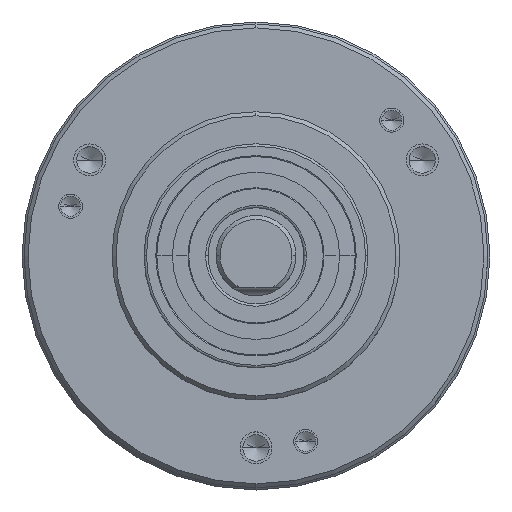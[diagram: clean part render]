
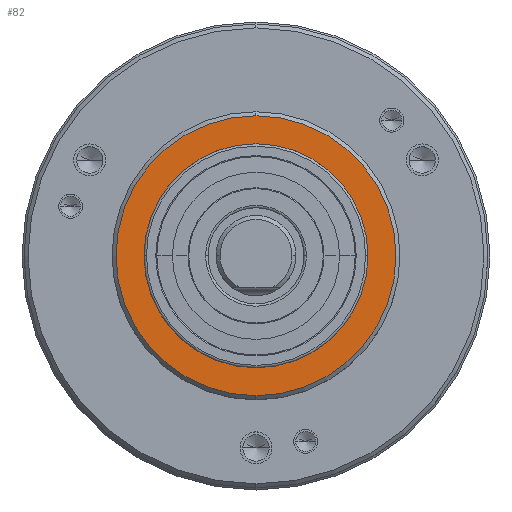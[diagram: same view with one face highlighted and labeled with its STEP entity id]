
A CAD part, top view. The second image highlights one B-rep face of the part: STEP entity #82.
In plain terms, the highlighted planar face has unit normal (0, 0, 1).
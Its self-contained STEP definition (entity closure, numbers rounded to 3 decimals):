
#81 = EDGE_CURVE ( 'NONE', #993, #217, #1494, .T. ) ;
#82 = ADVANCED_FACE ( 'NONE', ( #1455, #1454 ), #1453, .T. ) ;
#83 = EDGE_LOOP ( 'NONE', ( #84, #184 ) ) ;
#84 = ORIENTED_EDGE ( 'NONE', *, *, #1533, .T. ) ;
#85 = EDGE_LOOP ( 'NONE', ( #185, #186 ) ) ;
#184 = ORIENTED_EDGE ( 'NONE', *, *, #1299, .T. ) ;
#185 = ORIENTED_EDGE ( 'NONE', *, *, #81, .F. ) ;
#186 = ORIENTED_EDGE ( 'NONE', *, *, #810, .F. ) ;
#217 = VERTEX_POINT ( 'NONE', #1951 ) ;
#810 = EDGE_CURVE ( 'NONE', #217, #993, #3090, .T. ) ;
#993 = VERTEX_POINT ( 'NONE', #3316 ) ;
#1217 = VERTEX_POINT ( 'NONE', #4295 ) ;
#1299 = EDGE_CURVE ( 'NONE', #1300, #1217, #3590, .T. ) ;
#1300 = VERTEX_POINT ( 'NONE', #3616 ) ;
#1449 = DIRECTION ( 'NONE',  ( 0., -1., 0. ) ) ;
#1450 = DIRECTION ( 'NONE',  ( 0., 0., 1. ) ) ;
#1451 = CARTESIAN_POINT ( 'NONE',  ( 0., 0., 0. ) ) ;
#1452 = AXIS2_PLACEMENT_3D ( 'NONE', #1451, #1450, #1449 ) ;
#1453 = PLANE ( 'NONE',  #1452 ) ;
#1454 = FACE_BOUND ( 'NONE', #85, .T. ) ;
#1455 = FACE_OUTER_BOUND ( 'NONE', #83, .T. ) ;
#1456 = DIRECTION ( 'NONE',  ( -1., 0., 0. ) ) ;
#1457 = DIRECTION ( 'NONE',  ( 0., 0., 1. ) ) ;
#1458 = CARTESIAN_POINT ( 'NONE',  ( 0., 0., 0. ) ) ;
#1459 = AXIS2_PLACEMENT_3D ( 'NONE', #1458, #1457, #1456 ) ;
#1494 = CIRCLE ( 'NONE', #1459, 14. ) ;
#1533 = EDGE_CURVE ( 'NONE', #1217, #1300, #3907, .T. ) ;
#1951 = CARTESIAN_POINT ( 'NONE',  ( 14., 0., 0. ) ) ;
#2977 = DIRECTION ( 'NONE',  ( -1., 0., 0. ) ) ;
#2978 = DIRECTION ( 'NONE',  ( 0., 0., 1. ) ) ;
#2979 = CARTESIAN_POINT ( 'NONE',  ( 0., 0., 0. ) ) ;
#3089 = AXIS2_PLACEMENT_3D ( 'NONE', #2979, #2978, #2977 ) ;
#3090 = CIRCLE ( 'NONE', #3089, 14. ) ;
#3316 = CARTESIAN_POINT ( 'NONE',  ( -14., 0., 0. ) ) ;
#3590 = CIRCLE ( 'NONE', #3615, 17.5 ) ;
#3612 = DIRECTION ( 'NONE',  ( 0., -1., 0. ) ) ;
#3613 = DIRECTION ( 'NONE',  ( 0., 0., 1. ) ) ;
#3614 = CARTESIAN_POINT ( 'NONE',  ( 0., 0., 0. ) ) ;
#3615 = AXIS2_PLACEMENT_3D ( 'NONE', #3614, #3613, #3612 ) ;
#3616 = CARTESIAN_POINT ( 'NONE',  ( 0., -17.5, 0. ) ) ;
#3903 = DIRECTION ( 'NONE',  ( 0., -1., 0. ) ) ;
#3904 = DIRECTION ( 'NONE',  ( 0., 0., 1. ) ) ;
#3905 = CARTESIAN_POINT ( 'NONE',  ( 0., 0., 0. ) ) ;
#3906 = AXIS2_PLACEMENT_3D ( 'NONE', #3905, #3904, #3903 ) ;
#3907 = CIRCLE ( 'NONE', #3906, 17.5 ) ;
#4295 = CARTESIAN_POINT ( 'NONE',  ( 0., 17.5, 0. ) ) ;
